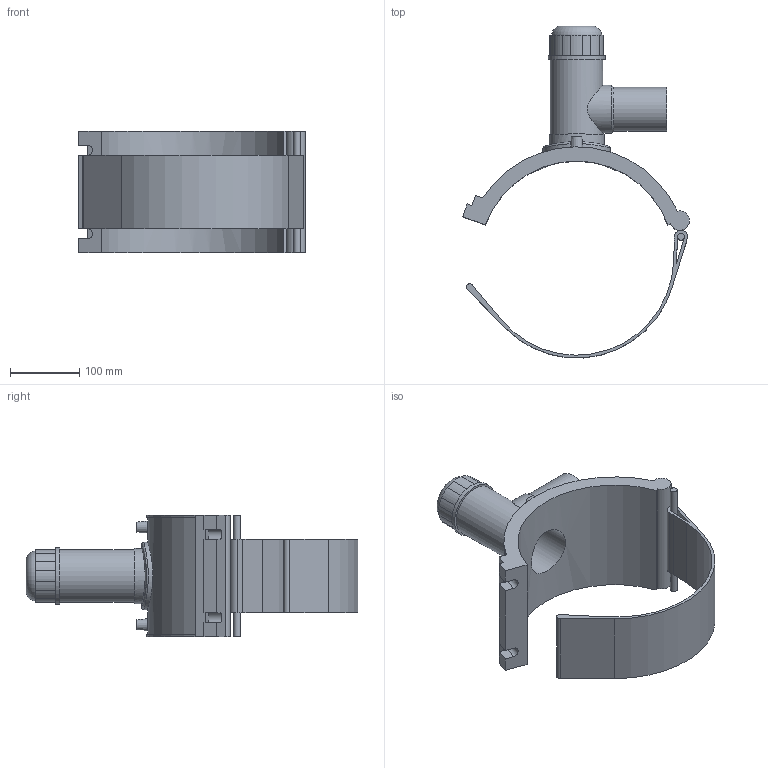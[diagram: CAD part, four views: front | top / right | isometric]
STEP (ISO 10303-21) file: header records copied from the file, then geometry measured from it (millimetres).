
FILE_DESCRIPTION(/* description */ ('PLASSON TAPPING TEE SADDLE 280mm x 63mm'),/* implementation_level */ '2;1');
FILE_NAME(/* name */ 'C:\Dropbox\KIMPROJECTS-Inventor 2019\99-16-3568-Processing\ElectroFusion Fittings\491304\491304280063.stp',/* time_stamp */ '2023-03-23T11:29:10+02:00',/* author */ ('KIM'),/* organization */ (''),/* preprocessor_version */ 'ST-DEVELOPER v17.2',/* originating_system */ 'Autodesk Inventor 2019',/* authorisation */ '');
FILE_SCHEMA (('AUTOMOTIVE_DESIGN { 1 0 10303 214 3 1 1 }'));
Length unit declared in the file: millimetre
Products named in the file (1): 491304280063
Bounding box: 327.06 x 478.88 x 176 mm (x, y, z)
Volume: 2072997.5 mm3; surface area: 391993.5 mm2
Topology: 2 solids, 2 shells, 91 faces, 229 edges, 157 vertices
Faces by surface type: cylinder 43, plane 43, cone 3, bspline 1, torus 1
Full cylindrical faces by diameter (mm): 4 x2, 10 x3, 50.4 x1, 63 x1, 69.3 x1, 69.6 x1, 75.6 x1, 79.6 x1, 81.9 x1, 97.65 x1
Entity records: 3363 total; most frequent: CARTESIAN_POINT 1033, DIRECTION 495, ORIENTED_EDGE 460, EDGE_CURVE 230, AXIS2_PLACEMENT_3D 191, VERTEX_POINT 159, LINE 113, VECTOR 113
